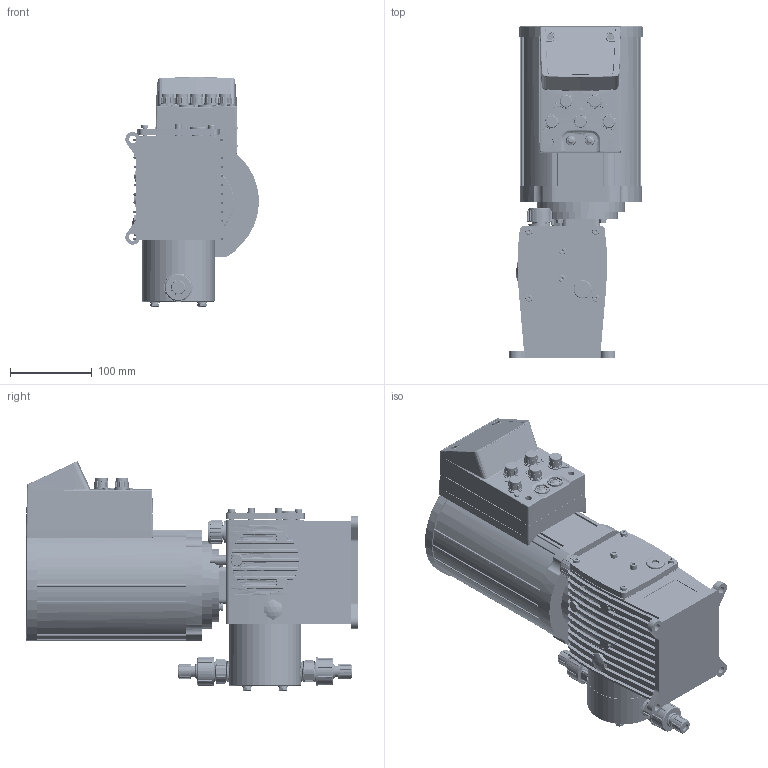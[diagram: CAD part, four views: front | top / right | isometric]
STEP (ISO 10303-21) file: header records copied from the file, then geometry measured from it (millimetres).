
FILE_DESCRIPTION (( 'STEP AP203' ), '1' );
FILE_NAME ('Memdos LP 35...60 6_9 6_9.STEP', '2018-09-21T12:42:16', ( 'USER' ), ( '' ), 'SwSTEP 2.0', 'SolidWorks 2017', '' );
FILE_SCHEMA (( 'CONFIG_CONTROL_DESIGN' ));
Products named in the file (1): Memdos LP 35...60 6_9 6_9
Bounding box: 163.51 x 406.97 x 281.3 mm (x, y, z)
Volume: 6742790.5 mm3; surface area: 619197.4 mm2
Topology: 59 solids, 59 shells, 4306 faces, 11407 edges, 7306 vertices
Faces by surface type: plane 2094, cylinder 1181, bspline 710, cone 170, torus 83, sphere 68
Full cylindrical faces by diameter (mm): 1.5 x1, 4.773 x4, 5 x10, 5.6 x1, 6 x13, 7.96 x4, 8 x6, 8.3 x3, 8.5 x6, 9 x10, 9.3 x2, 9.6 x2, 9.9 x3, 10 x8, 10.774 x40, 11 x1, 11.5 x2, 12 x11, 12.4 x2, 12.5 x2, 14 x2, 14.9 x1, 15 x6, 16.662 x1, 17 x5, 17.4 x2, 17.886 x1, 18 x5, 18.4 x2, 19 x2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
Entity records: 214366 total; most frequent: CARTESIAN_POINT 118873, ORIENTED_EDGE 21300, DIRECTION 17228, EDGE_CURVE 10650, VERTEX_POINT 7063, AXIS2_PLACEMENT_3D 6079, LINE 5070, VECTOR 5070
